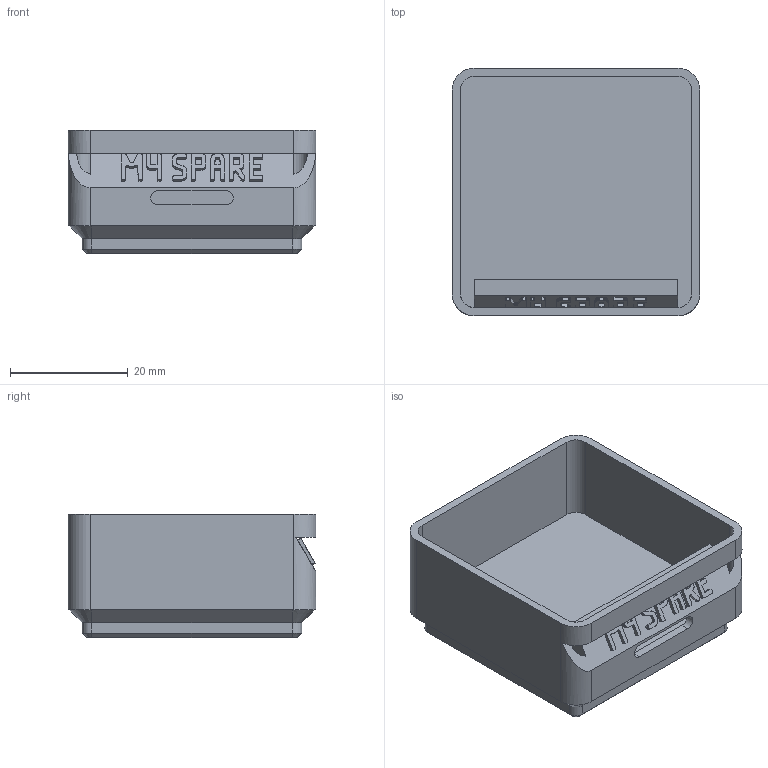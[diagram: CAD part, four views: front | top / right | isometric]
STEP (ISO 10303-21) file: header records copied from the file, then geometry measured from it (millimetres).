
FILE_DESCRIPTION(('Open CASCADE Model'),'2;1');
FILE_NAME('Open CASCADE Shape Model','2026-11-03T17:13:58',('Author'),( 'Open CASCADE'),'Open CASCADE STEP processor 8.0','build123d', 'Unknown');
FILE_SCHEMA(('AUTOMOTIVE_DESIGN { 1 0 10303 214 1 1 1 1 }'));
Length unit declared in the file: millimetre
Products named in the file (1): COMPOUND
Bounding box: 42 x 42 x 21 mm (x, y, z)
Volume: 12856.7 mm3; surface area: 9312.6 mm2
Topology: 1 solids, 1 shells, 684 faces, 1998 edges, 1326 vertices
Faces by surface type: plane 662, cylinder 14, cone 8
Entity records: 46882 total; most frequent: CARTESIAN_POINT 9425, DIRECTION 6056, LINE 4570, VECTOR 4570, ORIENTED_EDGE 3996, PCURVE 3996, DEFINITIONAL_REPRESENTATION 3996, EDGE_CURVE 1998
